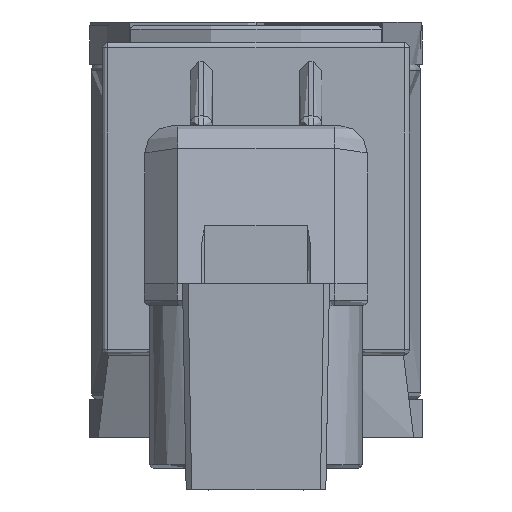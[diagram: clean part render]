
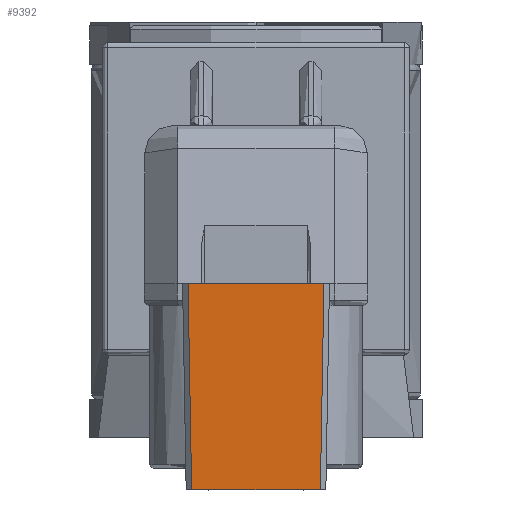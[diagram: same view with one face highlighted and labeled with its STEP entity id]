
A CAD part, front view. The second image highlights one B-rep face of the part: STEP entity #9392.
In plain terms, the highlighted planar face has unit normal (0, -0.999, -0.035).
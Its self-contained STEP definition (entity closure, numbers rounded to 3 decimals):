
#704 = LINE ( 'NONE', #9598, #3178 ) ;
#913 = EDGE_CURVE ( 'NONE', #9525, #8891, #2128, .T. ) ;
#1673 = PLANE ( 'NONE',  #5571 ) ;
#1811 = LINE ( 'NONE', #4379, #7908 ) ;
#1959 = CARTESIAN_POINT ( 'NONE',  ( 93.971, -46.814, -29.402 ) ) ;
#2128 = LINE ( 'NONE', #8577, #3332 ) ;
#2558 = CARTESIAN_POINT ( 'NONE',  ( 94.135, -46.486, -38.8 ) ) ;
#2575 = ORIENTED_EDGE ( 'NONE', *, *, #913, .F. ) ;
#2833 = CARTESIAN_POINT ( 'NONE',  ( 106.193, -47.142, -20. ) ) ;
#2892 = VERTEX_POINT ( 'NONE', #5702 ) ;
#3178 = VECTOR ( 'NONE', #4666, 1000. ) ;
#3332 = VECTOR ( 'NONE', #4497, 1000. ) ;
#3426 = DIRECTION ( 'NONE',  ( -1., 0., 0. ) ) ;
#3574 = VERTEX_POINT ( 'NONE', #2558 ) ;
#3623 = DIRECTION ( 'NONE',  ( -0.017, -0.035, 0.999 ) ) ;
#3631 = EDGE_CURVE ( 'NONE', #8891, #3574, #1811, .T. ) ;
#4379 = CARTESIAN_POINT ( 'NONE',  ( 100., -46.486, -38.8 ) ) ;
#4487 = LINE ( 'NONE', #1959, #4977 ) ;
#4497 = DIRECTION ( 'NONE',  ( -0.017, 0.035, -0.999 ) ) ;
#4666 = DIRECTION ( 'NONE',  ( 1., 0., 0. ) ) ;
#4977 = VECTOR ( 'NONE', #3623, 1000. ) ;
#5571 = AXIS2_PLACEMENT_3D ( 'NONE', #9174, #9073, #3426 ) ;
#5646 = ORIENTED_EDGE ( 'NONE', *, *, #8897, .F. ) ;
#5702 = CARTESIAN_POINT ( 'NONE',  ( 93.807, -47.142, -20. ) ) ;
#7319 = FACE_OUTER_BOUND ( 'NONE', #8693, .T. ) ;
#7579 = ORIENTED_EDGE ( 'NONE', *, *, #3631, .F. ) ;
#7908 = VECTOR ( 'NONE', #9111, 1000. ) ;
#8577 = CARTESIAN_POINT ( 'NONE',  ( 106.029, -46.814, -29.402 ) ) ;
#8693 = EDGE_LOOP ( 'NONE', ( #5646, #7579, #2575, #8811 ) ) ;
#8811 = ORIENTED_EDGE ( 'NONE', *, *, #9760, .F. ) ;
#8891 = VERTEX_POINT ( 'NONE', #9262 ) ;
#8897 = EDGE_CURVE ( 'NONE', #3574, #2892, #4487, .T. ) ;
#9073 = DIRECTION ( 'NONE',  ( 0., -0.999, -0.035 ) ) ;
#9111 = DIRECTION ( 'NONE',  ( -1., 0., 0. ) ) ;
#9174 = CARTESIAN_POINT ( 'NONE',  ( 107.193, -47.177, -19.001 ) ) ;
#9262 = CARTESIAN_POINT ( 'NONE',  ( 105.865, -46.486, -38.8 ) ) ;
#9392 = ADVANCED_FACE ( 'NONE', ( #7319 ), #1673, .T. ) ;
#9525 = VERTEX_POINT ( 'NONE', #2833 ) ;
#9598 = CARTESIAN_POINT ( 'NONE',  ( 100., -47.142, -20. ) ) ;
#9760 = EDGE_CURVE ( 'NONE', #2892, #9525, #704, .T. ) ;
